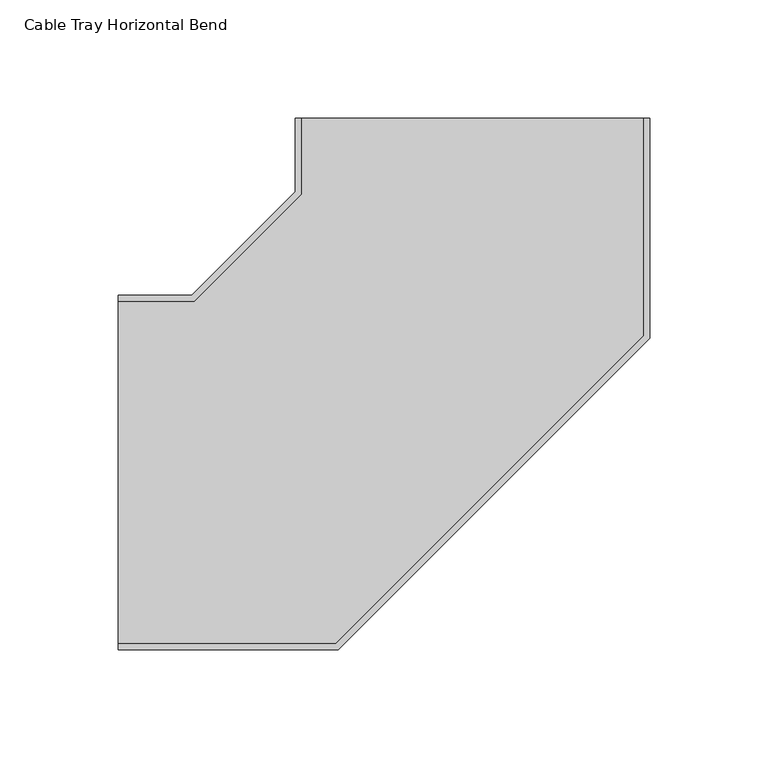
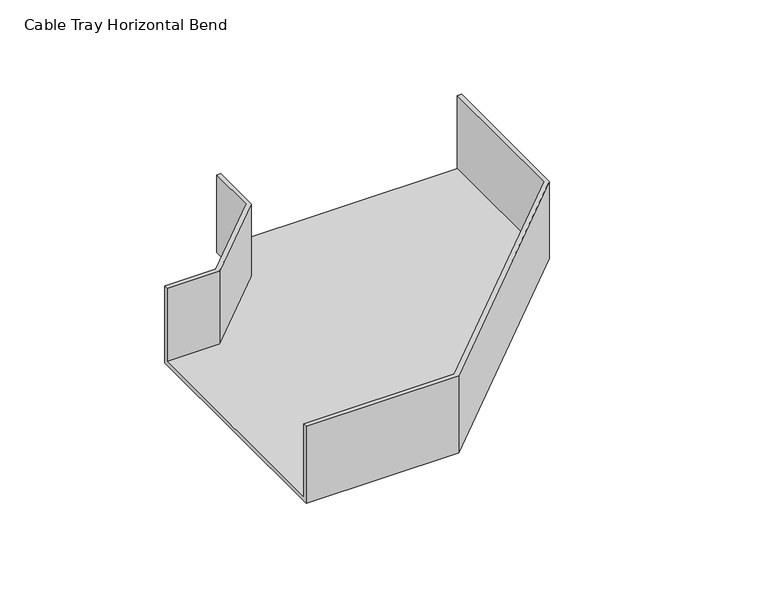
"""IFC4 building model written with IfcOpenShell, lengths in millimetres: cable carrier fitting geometry, Cable Tray Horizontal Bend : ELEC_ELV_CT_N2402."""

import ifcopenshell
import ifcopenshell.guid

model = None  # the IFC model being written
_history = None  # IfcOwnerHistory: only IFC2X3 demands one
_inside = {}  # id of a spatial element -> (the spatial element, [elements in it])
_under = {}  # id of a project, library or spatial element -> (it, [spatial elements below it])
_declared = {}  # id of a project -> (the project, [libraries it declares])
_typed = {}  # id of a type object -> (the type object, [elements of that type])
_made_of = {}  # id of a material, layer set ... -> (it, [elements and type objects made of it])


def new_model(schema):
    """Start an empty IFC model of exactly this schema.

    Asked for "IFC4X3", IfcOpenShell would pick the latest addendum, in which some entities
    have other attributes; the version numbers below select the first issue.
    IFC2X3 requires an IfcOwnerHistory on every rooted entity: one is made here for all.
    """
    global model, _history
    if schema == "IFC4X3":
        model = ifcopenshell.file(schema_version=(4, 3, 0, 0))
    else:
        model = ifcopenshell.file(schema=schema)
    _inside.clear()
    _under.clear()
    _declared.clear()
    _typed.clear()
    _made_of.clear()
    _history = None
    if model.schema == "IFC2X3":
        org = make("IfcOrganization", Name="unknown")
        user = make(
            "IfcPersonAndOrganization",
            ThePerson=make("IfcPerson", FamilyName="unknown"),
            TheOrganization=org,
        )
        app = make(
            "IfcApplication",
            ApplicationDeveloper=org,
            Version="unknown",
            ApplicationFullName="unknown",
            ApplicationIdentifier="unknown",
        )
        _history = make(
            "IfcOwnerHistory",
            OwningUser=user,
            OwningApplication=app,
            ChangeAction="ADDED",
            CreationDate=0,
        )
    return model


def make(cls, **values):
    """One entity of the class cls with the attributes given. An attribute that is None is left unset."""
    return model.create_entity(
        cls, **{name: value for name, value in values.items() if value is not None}
    )


def rooted(cls, **values):
    """An entity with a GlobalId (a new one), such as an element, a storey or a relation."""
    return make(cls, GlobalId=ifcopenshell.guid.new(), OwnerHistory=_history, **values)


def si_unit(unit_type, name, prefix=None):
    """IfcSIUnit, for example si_unit("LENGTHUNIT", "METRE", prefix="MILLI")."""
    return make("IfcSIUnit", UnitType=unit_type, Prefix=prefix, Name=name)


def assignment(units):
    """IfcUnitAssignment: the units of a project."""
    return None if units is None else make("IfcUnitAssignment", Units=units)


def point(xyz):
    """IfcCartesianPoint."""
    return None if xyz is None else make("IfcCartesianPoint", Coordinates=xyz)


def direction(xyz):
    """IfcDirection."""
    return None if xyz is None else make("IfcDirection", DirectionRatios=xyz)


def frame(location, z_axis=None, x_axis=None):
    """IfcAxis2Placement3D, a coordinate frame: its origin and axes. An axis left out is left unset."""
    return make(
        "IfcAxis2Placement3D",
        Location=point(location),
        Axis=direction(z_axis),
        RefDirection=direction(x_axis),
    )


def origin():
    """The frame at (0, 0, 0) with its axes left unset."""
    return frame((0.0, 0.0, 0.0))


def place(relative_to, where):
    """IfcLocalPlacement: puts the frame where relative to a parent placement (None: the world)."""
    return make(
        "IfcLocalPlacement", PlacementRelTo=relative_to, RelativePlacement=where
    )


def context(
    kind, dimensions, precision=None, world=None, true_north=None, identifier=None
):
    """IfcGeometricRepresentationContext, for example the 3D "Model" context."""
    return make(
        "IfcGeometricRepresentationContext",
        ContextIdentifier=identifier,
        ContextType=kind,
        CoordinateSpaceDimension=dimensions,
        Precision=precision,
        WorldCoordinateSystem=world,
        TrueNorth=true_north,
    )


def project(units=None, contexts=None):
    """IfcProject with its units and contexts."""
    return rooted(
        "IfcProject",
        Name="project",
        RepresentationContexts=contexts,
        UnitsInContext=assignment(units),
    )


def spatial(cls, under=None, at=None, **own):
    """A site, building, storey or space (cls), placed at a placement, below another one or the project."""
    s = rooted(cls, ObjectPlacement=at, **own)
    if under is not None:
        _under.setdefault(under.id(), (under, []))[1].append(s)
    return s


def faces_of(points, faces, orient=None, outer=None):
    """IfcFace entities. A face is a list of loops; a loop is a list of indices into points, from 0.

    orient and outer hold one flag for each loop. By default every Orientation is true, the
    first loop of a face is its IfcFaceOuterBound and the others are IfcFaceBound.
    """
    made = []
    for i, loops in enumerate(faces):
        bounds = []
        for j, loop in enumerate(loops):
            is_outer = j == 0 if outer is None else outer[i][j]
            bounds.append(
                make(
                    "IfcFaceOuterBound" if is_outer else "IfcFaceBound",
                    Bound=make("IfcPolyLoop", Polygon=[points[k] for k in loop]),
                    Orientation=True if orient is None else orient[i][j],
                )
            )
        made.append(make("IfcFace", Bounds=bounds))
    return made


def faceted_brep(points, faces, orient=None, outer=None, voids=None):
    """IfcFacetedBrep: a solid bounded by flat faces; with voids (closed shells), ...WithVoids."""
    shared = [point(p) for p in points]
    hull = make("IfcClosedShell", CfsFaces=faces_of(shared, faces, orient, outer))
    if voids is None:
        return make("IfcFacetedBrep", Outer=hull)
    return make(
        "IfcFacetedBrepWithVoids",
        Outer=hull,
        Voids=[
            make(cls, CfsFaces=faces_of(shared, fs, o, b)) for cls, fs, o, b in voids
        ],
    )


def shape(context_of_items, identifier, shape_type, items):
    """IfcShapeRepresentation: the items that make up one representation, for example the "Body"."""
    return make(
        "IfcShapeRepresentation",
        ContextOfItems=context_of_items,
        RepresentationIdentifier=identifier,
        RepresentationType=shape_type,
        Items=items,
    )


def source(mapping_origin, context_of_items, identifier, shape_type, items):
    """IfcRepresentationMap: a shape defined once, which mapped items show again and again."""
    return make(
        "IfcRepresentationMap",
        MappingOrigin=mapping_origin,
        MappedRepresentation=shape(context_of_items, identifier, shape_type, items),
    )


def transform(
    local_origin,
    x_axis=None,
    y_axis=None,
    z_axis=None,
    scale=None,
    scale2=None,
    scale3=None,
    uniform=True,
):
    """IfcCartesianTransformationOperator3D, or its non-uniform kind. x_axis, y_axis, z_axis: its Axis1, 2, 3."""
    if uniform:
        return make(
            "IfcCartesianTransformationOperator3D",
            Axis1=direction(x_axis),
            Axis2=direction(y_axis),
            LocalOrigin=point(local_origin),
            Scale=scale,
            Axis3=direction(z_axis),
        )
    return make(
        "IfcCartesianTransformationOperator3DnonUniform",
        Axis1=direction(x_axis),
        Axis2=direction(y_axis),
        LocalOrigin=point(local_origin),
        Scale=scale,
        Axis3=direction(z_axis),
        Scale2=scale2,
        Scale3=scale3,
    )


def mapped(mapping_source, mapping_target):
    """IfcMappedItem: shows the shape of a source again, moved by a transform."""
    return make(
        "IfcMappedItem", MappingSource=mapping_source, MappingTarget=mapping_target
    )


def made_of(thing, what):
    """Note that an element or type object is made of a material, layer set ...; save() writes the relation."""
    if what is not None:
        _made_of.setdefault(what.id(), (what, []))[1].append(thing)
    return thing


def element(
    cls,
    number,
    at=None,
    inside=None,
    cuts=None,
    type_object=None,
    material=None,
    context=None,
    identifier="Body",
    shape_type=None,
    held_by="IfcProductDefinitionShape",
    body=None,
    shapes=None,
    **own,
):
    """One element of the class cls, such as IfcWall. Its Tag is "e" and its number.

    at: its placement. inside: the storey or other place that contains it. cuts: it is an
    opening in that element (IfcRelVoidsElement). A single representation is given by context,
    identifier, shape_type and body (its items); several are given by shapes. held_by: the class
    of the entity that holds the representations. save() writes the other relations.
    """
    e = rooted(cls, Tag="e%d" % number, ObjectPlacement=at, **own)
    if body is not None:
        shapes = [shape(context, identifier, shape_type, body)]
    if shapes is not None:
        e.Representation = make(held_by, Representations=shapes)
    if inside is not None:
        _inside.setdefault(inside.id(), (inside, []))[1].append(e)
    if cuts is not None:
        rooted(
            "IfcRelVoidsElement", RelatingBuildingElement=cuts, RelatedOpeningElement=e
        )
    if type_object is not None:
        _typed.setdefault(type_object.id(), (type_object, []))[1].append(e)
    return made_of(e, material)


def aggregate(whole, parts):
    """IfcRelAggregates: a whole, such as a stair, and the parts it consists of."""
    return rooted("IfcRelAggregates", RelatingObject=whole, RelatedObjects=parts)


def save(model, path):
    """Write the relations noted so far, then the file.

    IfcRelAggregates (storeys below a building ...), IfcRelContainedInSpatialStructure (elements
    in a storey), IfcRelDefinesByType, IfcRelAssociatesMaterial and IfcRelDeclares: one each for
    every whole, place, type object, material and project.
    """
    for whole, parts in _under.values():
        aggregate(whole, parts)
    for where, things in _inside.values():
        rooted(
            "IfcRelContainedInSpatialStructure",
            RelatedElements=things,
            RelatingStructure=where,
        )
    for kind, things in _typed.values():
        rooted("IfcRelDefinesByType", RelatedObjects=things, RelatingType=kind)
    for what, things in _made_of.values():
        rooted("IfcRelAssociatesMaterial", RelatedObjects=things, RelatingMaterial=what)
    for by, libraries in _declared.values():
        rooted("IfcRelDeclares", RelatingContext=by, RelatedDefinitions=libraries)
    model.write(path)


def cable_tray_horizontal_bend_3927de18(model_context):
    return source(origin(), model_context, "Body", "Brep", [
        faceted_brep([(-150.0, -75.0, -25.0), (-150.0, -75.0, 25.0), (-150.0, -72.46, 25.0), (-150.0, -72.46, -22.46), (-150.0, 72.46, -22.46), (-150.0, 72.46, 25.0), (-150.0, 75.0, 25.0), (-150.0, 75.0, -25.0), (75.0, 150.0, -25.0), (-75.0, 150.0, -25.0), (-75.0, 150.0, 25.0), (-72.46, 150.0, 25.0), (-72.46, 150.0, -22.46), (72.46, 150.0, -22.46), (72.46, 150.0, 25.0), (75.0, 150.0, 25.0), (-56.8019485, -75.0, -25.0), (-56.8019485, -75.0, 25.0), (75.0, 56.8019485, 25.0), (72.46, 57.8540509, 25.0), (-57.8540509, -72.46, 25.0), (-57.8540509, -72.46, -22.46), (72.46, 57.8540509, -22.46), (-72.46, 117.8818804, -22.46), (-117.8818804, 72.46, -22.46), (-117.8818804, 72.46, 25.0), (-72.46, 117.8818804, 25.0), (-75.0, 118.9339828, 25.0), (-118.9339828, 75.0, 25.0), (-118.9339828, 75.0, -25.0), (-75.0, 118.9339828, -25.0), (75.0, 56.8019485, -25.0)], [[[0, 1, 2, 3, 4, 5, 6, 7]], [[8, 9, 10, 11, 12, 13, 14, 15]], [[1, 0, 16, 17]], [[2, 1, 17, 18, 15, 14, 19, 20]], [[3, 2, 20, 21]], [[4, 3, 21, 22, 13, 12, 23, 24]], [[5, 4, 24, 25]], [[6, 5, 25, 26, 11, 10, 27, 28]], [[7, 6, 28, 29]], [[0, 7, 29, 30, 9, 8, 31, 16]], [[17, 16, 31, 18]], [[21, 20, 19, 22]], [[25, 24, 23, 26]], [[29, 28, 27, 30]], [[18, 31, 8, 15]], [[22, 19, 14, 13]], [[26, 23, 12, 11]], [[30, 27, 10, 9]]]),
    ])


if __name__ == "__main__":
    model = new_model("IFC4")
    model_context = context("Model", 3, world=origin())
    ifc_project = project(units=[si_unit("LENGTHUNIT", "METRE", prefix="MILLI")], contexts=[model_context])
    site = spatial("IfcSite", under=ifc_project)
    building = spatial("IfcBuilding", under=site)
    placement = place(None, origin())
    cable_tray_horizontal_bend_shape = cable_tray_horizontal_bend_3927de18(model_context)
    element("IfcCableCarrierFitting", 1, ObjectType="Cable Tray Horizontal Bend : ELEC_ELV_CT_N2402", at=placement, inside=building, context=model_context, shape_type="MappedRepresentation", body=[
        mapped(cable_tray_horizontal_bend_shape, transform((0.0, 0.0, 0.0), x_axis=(1.0, 0.0, 0.0), y_axis=(0.0, 1.0, 0.0), z_axis=(0.0, 0.0, 1.0))),
    ])
    save(model, "model.ifc")
